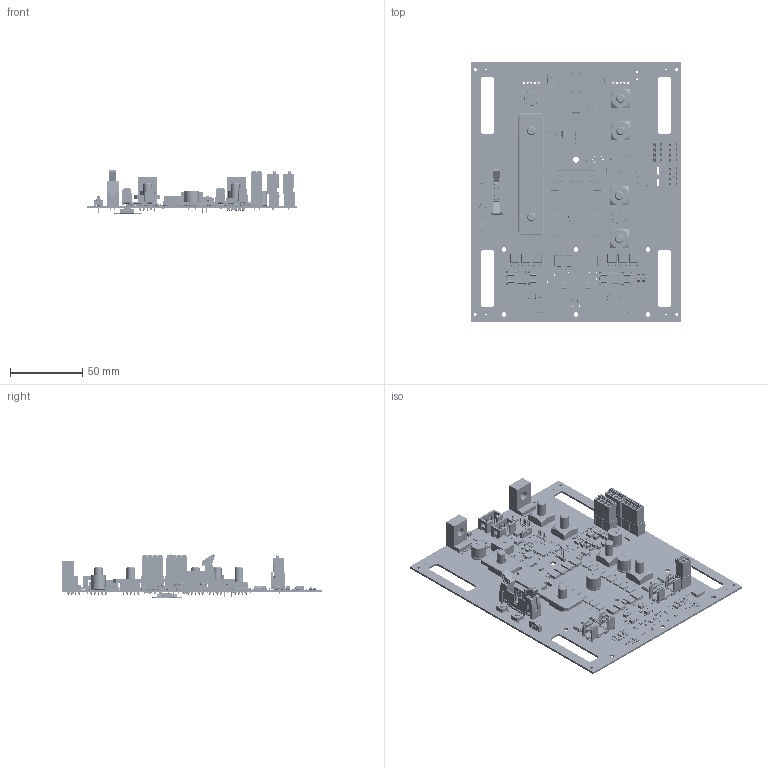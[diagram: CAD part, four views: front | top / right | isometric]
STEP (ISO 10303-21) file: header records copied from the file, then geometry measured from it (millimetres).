
FILE_DESCRIPTION(('KiCad electronic assembly'),'2;1');
FILE_NAME('smartPro.step','2025-07-12T19:04:05',('Pcbnew'),('Kicad'), 'Open CASCADE STEP processor 7.9','KiCad to STEP converter','Unknown' );
FILE_SCHEMA(('AUTOMOTIVE_DESIGN { 1 0 10303 214 1 1 1 1 }'));
Length unit declared in the file: millimetre
Products named in the file (77): smartPro 1; L_0805_2012Metric; R_0603_1608Metric; PinHeader_2x08_P1.27mm_Vertical_SMD; PinHeader_2x05_P1.27mm_Vertical_SMD; C_0603_1608Metric; C_1210_3225Metric; 430152043826 (rev1); 61201022021; 10; 6120xx22x21_LEVIER_COURT; 6120xx21621_PIN; D_SMC; TO-252-2; smartPro 1.18.1; SOIC-8_5.3x5.3mm_P1.27mm; LED_0603_1608Metric; PQFN-8-EP_6x5mm_P1.27mm_Generic; SOT-23; Crystal_SMD_0603-4Pin_6.0x3.5mm; SOT-353_SC-70-5; SOT-23-5; D_SMB; 7461098; 74622106; Download_STEP_691304100004 (rev1); 691304100004; 691304100004_Bas; 6913041000xx_Levier; 6913041000xx_Pin; 6913041000xx_Lamelle; HSOP-8-1EP_3.9x4.9mm_P1.27mm_EP2.41x3.1mm; ws-sltv_450301014042 (rev1); cover; slide; SOT-23-8; CP_Radial_D10.0mm_P5.00mm; C_1206_3216Metric; 45A-VERT-PAIR; Download_STP_WE-LQFS-4818 (rev1)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
Assembly tree (407 placements, depth 3):
  smartPro 1
    L_0805_2012Metric
    R_0603_1608Metric  x133
    PinHeader_2x08_P1.27mm_Vertical_SMD
    PinHeader_2x05_P1.27mm_Vertical_SMD
    C_0603_1608Metric  x74
    C_1210_3225Metric  x18
    430152043826 (rev1)  x2
    61201022021
      10
      6120xx22x21_LEVIER_COURT  x2
      6120xx21621_PIN  x10
    D_SMC  x9
    TO-252-2  x6
      smartPro 1.18.1
    SOIC-8_5.3x5.3mm_P1.27mm
    LED_0603_1608Metric  x11
    PQFN-8-EP_6x5mm_P1.27mm_Generic  x16
    SOT-23  x9
    Crystal_SMD_0603-4Pin_6.0x3.5mm
    SOT-353_SC-70-5  x2
    SOT-23-5  x6
    D_SMB
    7461098  x6
    74622106  x2
    Download_STEP_691304100004 (rev1)  x3
      691304100004
      691304100004_Bas
      6913041000xx_Levier
      6913041000xx_Pin
      6913041000xx_Lamelle
    HSOP-8-1EP_3.9x4.9mm_P1.27mm_EP2.41x3.1mm  x2
    ws-sltv_450301014042 (rev1)  x2
      cover
      slide
    SOT-23-8  x2
    CP_Radial_D10.0mm_P5.00mm  x4
    C_1206_3216Metric  x9
    45A-VERT-PAIR
    Download_STP_WE-LQFS-4818 (rev1)  x2
      4818_74406042_Housing
      4818_74406042
      4818_74406042
      4818_74406042_Pads
      Glue L
      Glue R
    SOT-23-6  x2
    PinHeader_1x02_P2.54mm_Vertical
    LQH32CN2R2M53L  x2
      Rect1
      Rect2
      Rect3
      Rect4
      Rect5
      Pad0
      Pad1
    SO-4_4.4x4.3mm_P2.54mm  x2
    PhoenixContact_MCV_1,5_2-G-3.5_1x02_P3.50mm_Vertical
    SOIC-8_3.9x4.9mm_P1.27mm  x2
    CMI-1265-88-SMT-TR
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Bounding box: 146 x 180.04 x 30.17 mm (x, y, z)
Volume: 73901.3 mm3; surface area: 109785.2 mm2
Topology: 503 solids, 507 shells, 24320 faces, 63330 edges, 40674 vertices
Faces by surface type: plane 18023, cylinder 5419, bspline 626, cone 110, torus 74, extrusion 52, revolution 16
Full cylindrical faces by diameter (mm): 0.1 x28, 0.155 x2, 0.3 x24, 0.5 x4, 0.6 x6, 0.66 x1, 0.7 x13, 0.8 x6, 1 x62, 1.2 x36, 1.4 x2, 1.45 x200, 1.6 x2, 1.9 x2, 2.2 x4, 2.35 x2, 2.5 x16, 3.2 x6, 3.5 x2, 4.3 x1, 4.917 x2, 6 x12
Entity records: 284042 total; most frequent: CARTESIAN_POINT 46983, ORIENTED_EDGE 40349, DIRECTION 38231, EDGE_CURVE 20176, VECTOR 15887, LINE 15861, VERTEX_POINT 12913, AXIS2_PLACEMENT_3D 11170
